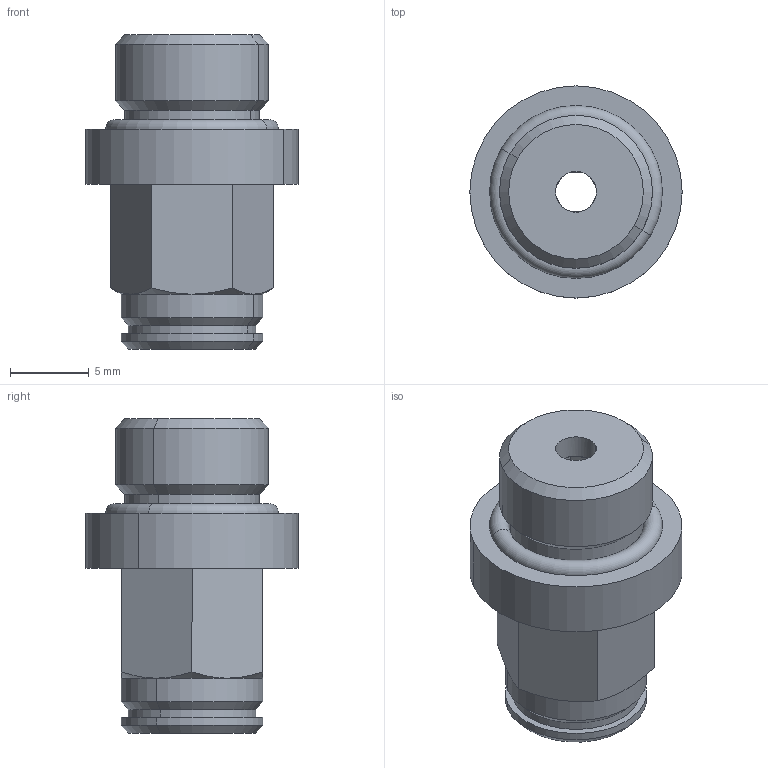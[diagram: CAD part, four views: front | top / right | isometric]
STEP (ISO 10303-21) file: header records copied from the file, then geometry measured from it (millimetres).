
FILE_DESCRIPTION((''),'2;1');
FILE_NAME('1823373041','2017-02-03T',('pug1hc'),(''),'PRO/ENGINEER BY PARAMETRIC TECHNOLOGY CORPORATION, 2012421','PRO/ENGINEER BY PARAMETRIC TECHNOLOGY CORPORATION, 2012421','');
FILE_SCHEMA(('CONFIG_CONTROL_DESIGN','SHAPE_APPEARANCE_LAYERS_GROUPS'));
Length unit declared in the file: millimetre
Products named in the file (1): 1823373041
Bounding box: 13.5 x 13.5 x 20 mm (x, y, z)
Volume: 1436.9 mm3; surface area: 1178 mm2
Topology: 1 solids, 1 shells, 62 faces, 140 edges, 84 vertices
Faces by surface type: plane 30, cylinder 16, cone 14, torus 2
Entity records: 1822 total; most frequent: CARTESIAN_POINT 355, DIRECTION 314, ORIENTED_EDGE 280, EDGE_CURVE 140, AXIS2_PLACEMENT_3D 124, VERTEX_POINT 84, EDGE_LOOP 68, VECTOR 66
